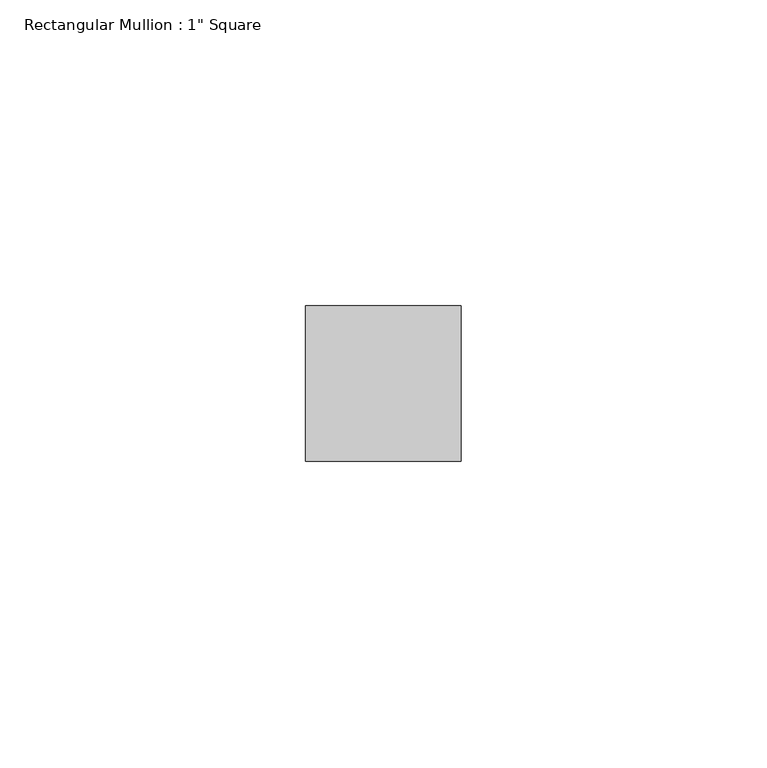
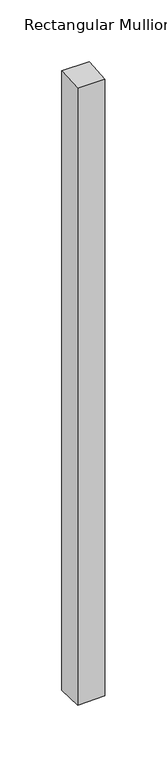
"""IFC4 building model written with IfcOpenShell, lengths in millimetres: member geometry."""

from ifc_helpers import new_model, si_unit, origin, place, context, project, spatial, faceted_brep, source, transform, mapped, element, save


def member_57d99a8e(model_context):
    return source(origin(), model_context, "Body", "Brep", [
        faceted_brep([(-25.4, 12.7, 0.7987934), (0.0, 12.7, 0.7584733), (0.0, 12.7, -610.1284588), (-25.4, 12.7, -610.1565514), (-25.4, -12.7, -0.7181531), (-25.4, -12.7, -609.0996339), (0.0, -12.7, -0.7584733), (0.0, -12.7, -609.0715412)], [[[0, 1, 2, 3]], [[4, 0, 3, 5]], [[6, 4, 5, 7]], [[1, 6, 7, 2]], [[1, 0, 4, 6]], [[2, 7, 5, 3]]]),
    ])


if __name__ == "__main__":
    model = new_model("IFC4")
    model_context = context("Model", 3, world=origin())
    ifc_project = project(units=[si_unit("LENGTHUNIT", "METRE", prefix="MILLI")], contexts=[model_context])
    site = spatial("IfcSite", under=ifc_project)
    building = spatial("IfcBuilding", under=site)
    placement = place(None, origin())
    member_shape = member_57d99a8e(model_context)
    element("IfcMember", 1, ObjectType="Rectangular Mullion : 1\" Square", at=placement, inside=building, context=model_context, shape_type="MappedRepresentation", body=[
        mapped(member_shape, transform((0.0, 0.0, 0.0), x_axis=(1.0, 0.0, 0.0), y_axis=(0.0, 1.0, 0.0), z_axis=(0.0, 0.0, 1.0))),
    ])
    save(model, "model.ifc")
